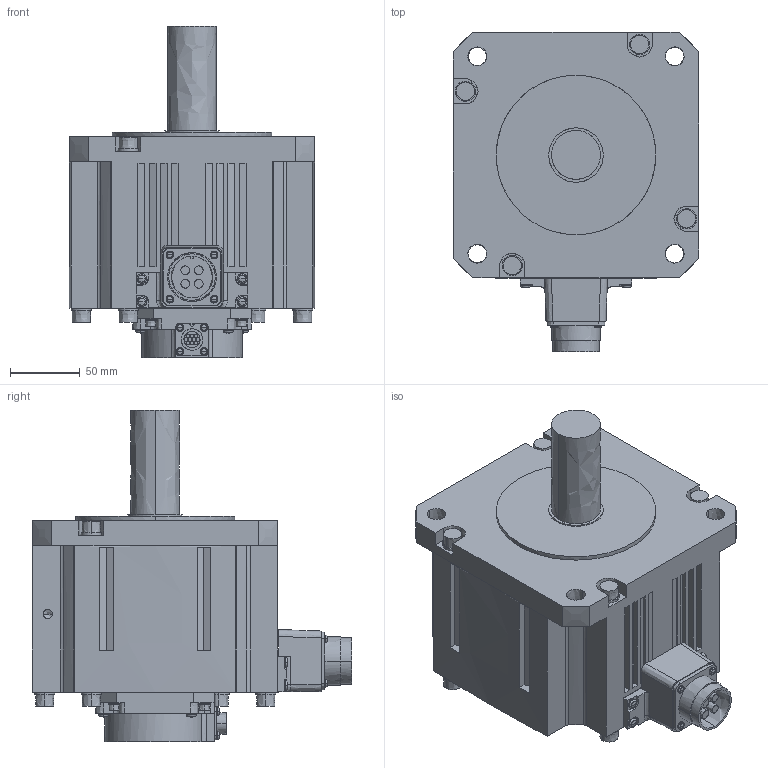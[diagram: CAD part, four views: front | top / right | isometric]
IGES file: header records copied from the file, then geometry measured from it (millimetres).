
Start section:  PTC IGES file: hk-st352w_.igs
Global section: file name: hk-st352w_.igs; native system: Creo Parametric by PTC Inc.; preprocessor: 2016380; author: XE90682; organization: Unknown; date: 20190117.164535; units: millimetre
Bounding box: 176 x 228.8 x 237.5 mm (x, y, z)
Volume: 3739046 mm3; surface area: 198403 mm2
Topology: 1 solids, 1 shells, 531 faces, 1291 edges, 814 vertices
Faces by surface type: bspline 531
